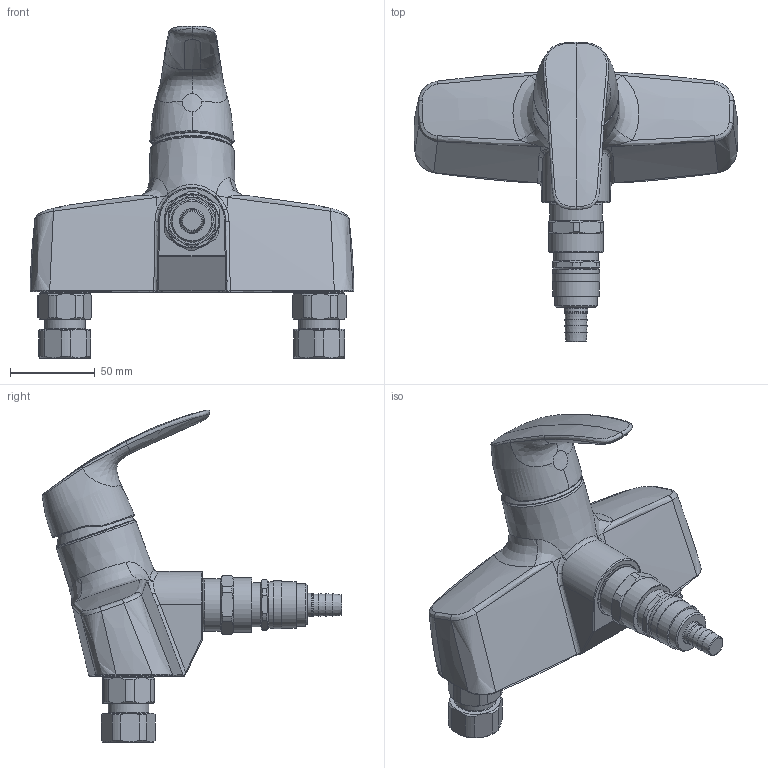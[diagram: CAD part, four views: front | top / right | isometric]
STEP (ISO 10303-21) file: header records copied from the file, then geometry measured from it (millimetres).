
FILE_DESCRIPTION (( 'STEP AP203' ), '1' );
FILE_NAME ('1056(2017).STEP', '2017-03-09T05:41:39', ( '' ), ( '' ), 'SwSTEP 2.0', 'SolidWorks 2016', '' );
FILE_SCHEMA (( 'CONFIG_CONTROL_DESIGN' ));
Length unit declared in the file: millimetre
Products named in the file (1): 1056(2017)
Bounding box: 191.05 x 176.76 x 195.8 mm (x, y, z)
Surface area: 82941.8 mm2 (no closed solid volume)
Topology: 0 solids, 4 shells, 320 faces, 726 edges, 443 vertices
Faces by surface type: bspline 91, plane 78, cylinder 71, cone 70, torus 10
Full cylindrical faces by diameter (mm): 12.5 x2, 13.5 x1, 13.7 x1, 15.7 x1, 16.6 x2, 21.2 x2, 24 x2, 24.7 x2, 25 x1, 26 x3, 26.7 x2, 27.5 x2, 28.3 x1, 29 x2, 31 x1, 32 x1, 33 x1
Entity records: 21287 total; most frequent: CARTESIAN_POINT 15218, ORIENTED_EDGE 1294, DIRECTION 1036, EDGE_CURVE 647, AXIS2_PLACEMENT_3D 474, VERTEX_POINT 421, EDGE_LOOP 406, FACE_OUTER_BOUND 361
